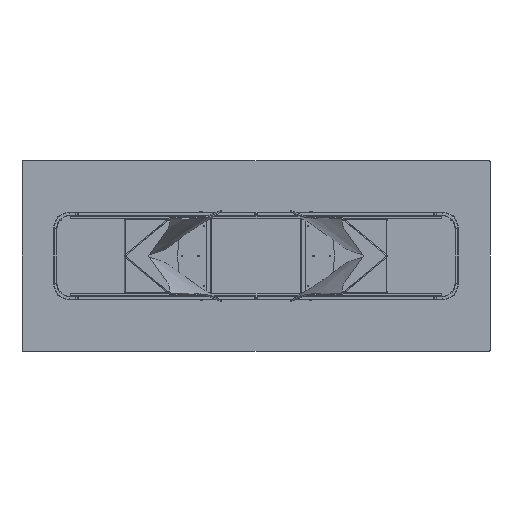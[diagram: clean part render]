
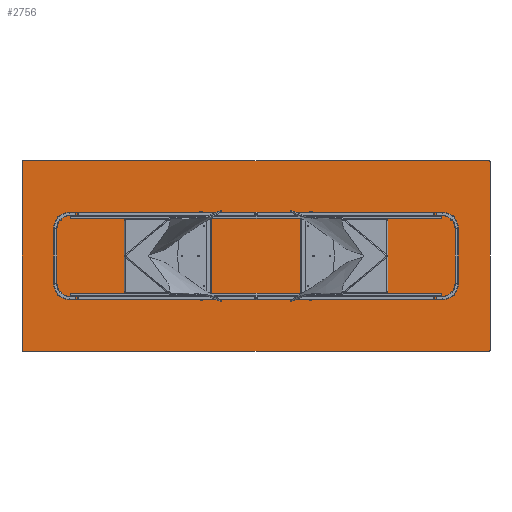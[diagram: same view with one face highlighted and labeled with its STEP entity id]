
A CAD part, front view. The second image highlights one B-rep face of the part: STEP entity #2756.
In plain terms, the highlighted planar face has unit normal (0, -1, 0).
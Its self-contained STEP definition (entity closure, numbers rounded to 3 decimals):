
#57 = FACE_OUTER_BOUND ( 'NONE', #11680, .T. ) ;
#480 = LINE ( 'NONE', #18183, #9113 ) ;
#590 = CARTESIAN_POINT ( 'NONE',  ( -1470., 0., 595. ) ) ;
#706 = CARTESIAN_POINT ( 'NONE',  ( 1475., 0., -595. ) ) ;
#714 = DIRECTION ( 'NONE',  ( 0., -1., 0. ) ) ;
#943 = CARTESIAN_POINT ( 'NONE',  ( -1470., 0., 600. ) ) ;
#1214 = CARTESIAN_POINT ( 'NONE',  ( 1470., 0., 600. ) ) ;
#1567 = DIRECTION ( 'NONE',  ( 0., 1., 0. ) ) ;
#2747 = CARTESIAN_POINT ( 'NONE',  ( -1475., 0., -600. ) ) ;
#2756 = ADVANCED_FACE ( 'NONE', ( #57 ), #10480, .F. ) ;
#3553 = EDGE_CURVE ( 'NONE', #21414, #12703, #480, .T. ) ;
#3602 = DIRECTION ( 'NONE',  ( 0., -1., 0. ) ) ;
#3614 = EDGE_CURVE ( 'NONE', #4831, #6595, #18723, .T. ) ;
#3954 = DIRECTION ( 'NONE',  ( 0., 0., 1. ) ) ;
#4072 = VECTOR ( 'NONE', #16860, 1000. ) ;
#4115 = ORIENTED_EDGE ( 'NONE', *, *, #15280, .T. ) ;
#4133 = EDGE_CURVE ( 'NONE', #4831, #10087, #13961, .T. ) ;
#4300 = CARTESIAN_POINT ( 'NONE',  ( -1470., 0., -595. ) ) ;
#4470 = ORIENTED_EDGE ( 'NONE', *, *, #14631, .F. ) ;
#4603 = LINE ( 'NONE', #2747, #4072 ) ;
#4791 = VECTOR ( 'NONE', #16009, 1000. ) ;
#4831 = VERTEX_POINT ( 'NONE', #943 ) ;
#5386 = CARTESIAN_POINT ( 'NONE',  ( -1475., 0., 600. ) ) ;
#5470 = AXIS2_PLACEMENT_3D ( 'NONE', #8070, #13744, #15595 ) ;
#5582 = DIRECTION ( 'NONE',  ( 0., -1., 0. ) ) ;
#6418 = VERTEX_POINT ( 'NONE', #9942 ) ;
#6595 = VERTEX_POINT ( 'NONE', #8658 ) ;
#7097 = CARTESIAN_POINT ( 'NONE',  ( -1475., 0., -600. ) ) ;
#7312 = CARTESIAN_POINT ( 'NONE',  ( 1470., 0., -600. ) ) ;
#7699 = ORIENTED_EDGE ( 'NONE', *, *, #8392, .F. ) ;
#8070 = CARTESIAN_POINT ( 'NONE',  ( 1470., 0., -595. ) ) ;
#8392 = EDGE_CURVE ( 'NONE', #12617, #6418, #4603, .T. ) ;
#8483 = CIRCLE ( 'NONE', #13295, 5. ) ;
#8658 = CARTESIAN_POINT ( 'NONE',  ( -1475., 0., 595. ) ) ;
#8830 = LINE ( 'NONE', #7097, #4791 ) ;
#8942 = ORIENTED_EDGE ( 'NONE', *, *, #4133, .F. ) ;
#9069 = CARTESIAN_POINT ( 'NONE',  ( 0., 0., 0. ) ) ;
#9113 = VECTOR ( 'NONE', #12864, 1000. ) ;
#9257 = DIRECTION ( 'NONE',  ( 0., 0., 1. ) ) ;
#9942 = CARTESIAN_POINT ( 'NONE',  ( -1470., 0., -600. ) ) ;
#10087 = VERTEX_POINT ( 'NONE', #1214 ) ;
#10480 = PLANE ( 'NONE',  #15765 ) ;
#10737 = ORIENTED_EDGE ( 'NONE', *, *, #11247, .T. ) ;
#10798 = ORIENTED_EDGE ( 'NONE', *, *, #18832, .T. ) ;
#11247 = EDGE_CURVE ( 'NONE', #12617, #12703, #19870, .T. ) ;
#11680 = EDGE_LOOP ( 'NONE', ( #19674, #4115, #8942, #21265, #4470, #10798, #7699, #10737 ) ) ;
#12617 = VERTEX_POINT ( 'NONE', #7312 ) ;
#12703 = VERTEX_POINT ( 'NONE', #706 ) ;
#12864 = DIRECTION ( 'NONE',  ( 0., 0., -1. ) ) ;
#13122 = VERTEX_POINT ( 'NONE', #16913 ) ;
#13295 = AXIS2_PLACEMENT_3D ( 'NONE', #19442, #3602, #9257 ) ;
#13744 = DIRECTION ( 'NONE',  ( 0., -1., 0. ) ) ;
#13961 = LINE ( 'NONE', #5386, #14686 ) ;
#14072 = DIRECTION ( 'NONE',  ( 0., 0., 1. ) ) ;
#14631 = EDGE_CURVE ( 'NONE', #13122, #6595, #8830, .T. ) ;
#14686 = VECTOR ( 'NONE', #22860, 1000. ) ;
#14717 = DIRECTION ( 'NONE',  ( 0., 0., 1. ) ) ;
#15280 = EDGE_CURVE ( 'NONE', #21414, #10087, #8483, .T. ) ;
#15595 = DIRECTION ( 'NONE',  ( 0., 0., 1. ) ) ;
#15765 = AXIS2_PLACEMENT_3D ( 'NONE', #9069, #1567, #14072 ) ;
#16009 = DIRECTION ( 'NONE',  ( 0., 0., 1. ) ) ;
#16714 = CIRCLE ( 'NONE', #22233, 5. ) ;
#16860 = DIRECTION ( 'NONE',  ( -1., 0., 0. ) ) ;
#16913 = CARTESIAN_POINT ( 'NONE',  ( -1475., 0., -595. ) ) ;
#18183 = CARTESIAN_POINT ( 'NONE',  ( 1475., 0., -600. ) ) ;
#18723 = CIRCLE ( 'NONE', #21672, 5. ) ;
#18832 = EDGE_CURVE ( 'NONE', #13122, #6418, #16714, .T. ) ;
#19442 = CARTESIAN_POINT ( 'NONE',  ( 1470., 0., 595. ) ) ;
#19674 = ORIENTED_EDGE ( 'NONE', *, *, #3553, .F. ) ;
#19870 = CIRCLE ( 'NONE', #5470, 5. ) ;
#21265 = ORIENTED_EDGE ( 'NONE', *, *, #3614, .T. ) ;
#21414 = VERTEX_POINT ( 'NONE', #21458 ) ;
#21458 = CARTESIAN_POINT ( 'NONE',  ( 1475., 0., 595. ) ) ;
#21672 = AXIS2_PLACEMENT_3D ( 'NONE', #590, #5582, #14717 ) ;
#22233 = AXIS2_PLACEMENT_3D ( 'NONE', #4300, #714, #3954 ) ;
#22860 = DIRECTION ( 'NONE',  ( 1., 0., 0. ) ) ;
